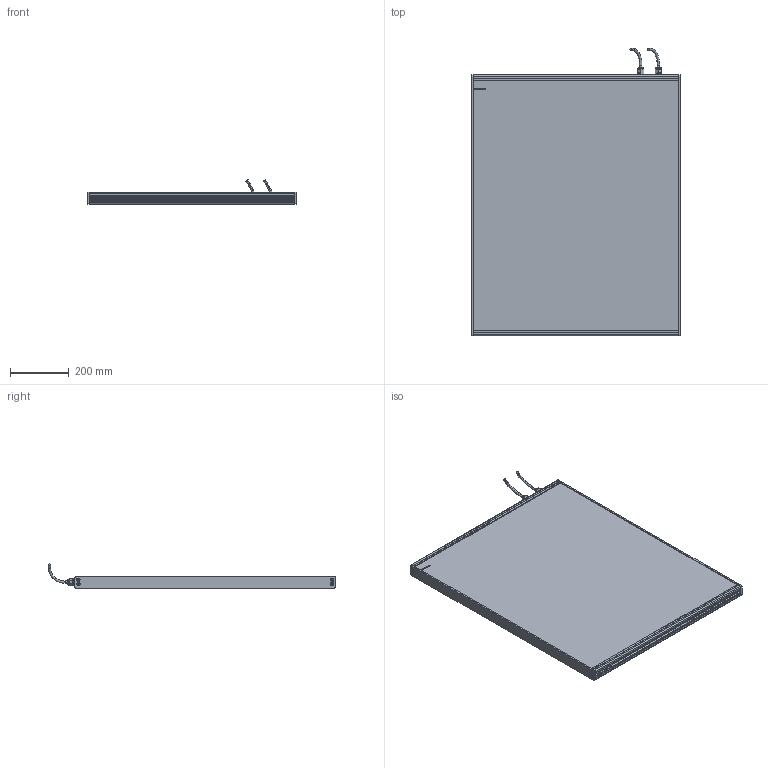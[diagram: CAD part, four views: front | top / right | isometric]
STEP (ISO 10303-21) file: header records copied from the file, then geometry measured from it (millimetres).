
FILE_DESCRIPTION (( 'STEP AP214' ), '1' );
FILE_NAME ('EFFI-BL-700T-850-2M12P.STEP', '2021-07-02T08:12:37', ( '' ), ( '' ), 'SwSTEP 2.0', 'SolidWorks 2021', '' );
FILE_SCHEMA (( 'AUTOMOTIVE_DESIGN' ));
Length unit declared in the file: millimetre
Products named in the file (7): bord fin modif_lg 436.5 mm; profile modif_lg 99.5 mm; EFFI-BL-700T-850-2M12P; M12 power; Pièce2^EFFI-BL-XXXT-YYY + 2 M12P; 003776
Assembly tree (15 placements, depth 2):
  EFFI-BL-700T-850-2M12P
    profile modif_lg 99.5 mm
    bord fin modif_lg 436.5 mm  x2
    Pièce2^EFFI-BL-XXXT-YYY + 2 M12P
    profile modif_lg 99.5 mm
    M12 power  x2
    003776  x8
Bounding box: 710 x 976.45 x 81.88 mm (x, y, z)
Volume: 21727889.3 mm3; surface area: 1674299.6 mm2
Topology: 13 solids, 19 shells, 627 faces, 1592 edges, 1022 vertices
Faces by surface type: plane 360, bspline 125, cylinder 114, cone 20, torus 8
Entity records: 16012 total; most frequent: CARTESIAN_POINT 5284, ORIENTED_EDGE 2148, DIRECTION 1816, EDGE_CURVE 1076, LINE 782, VECTOR 782, VERTEX_POINT 711, AXIS2_PLACEMENT_3D 517
